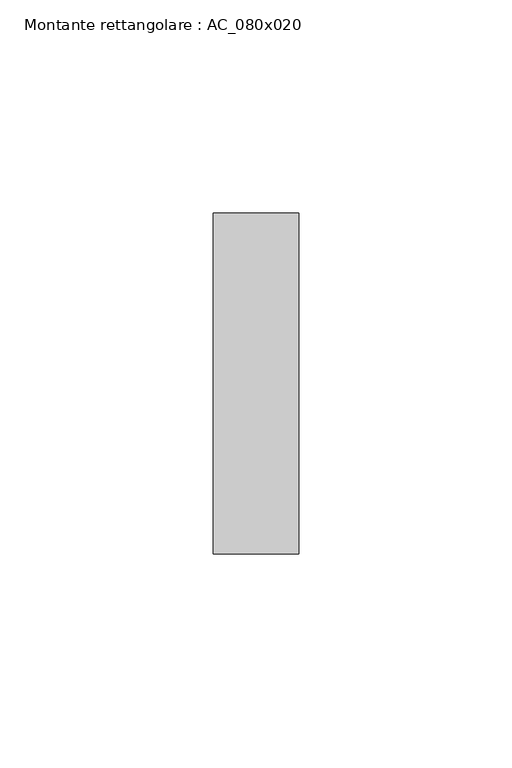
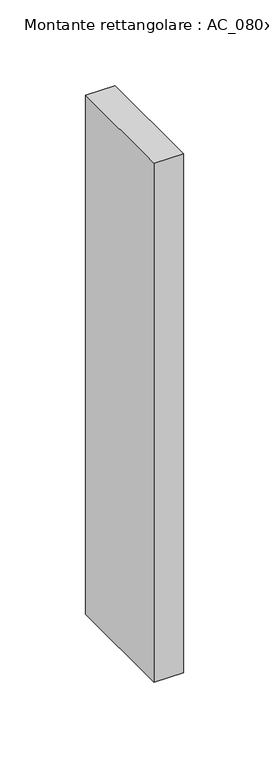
"""IFC4 building model written with IfcOpenShell, lengths in millimetres: member geometry, Montante rettangolare : AC_080x020."""

import ifcopenshell
import ifcopenshell.guid

model = None  # the IFC model being written
_history = None  # IfcOwnerHistory: only IFC2X3 demands one
_inside = {}  # id of a spatial element -> (the spatial element, [elements in it])
_under = {}  # id of a project, library or spatial element -> (it, [spatial elements below it])
_declared = {}  # id of a project -> (the project, [libraries it declares])
_typed = {}  # id of a type object -> (the type object, [elements of that type])
_made_of = {}  # id of a material, layer set ... -> (it, [elements and type objects made of it])


def new_model(schema):
    """Start an empty IFC model of exactly this schema.

    Asked for "IFC4X3", IfcOpenShell would pick the latest addendum, in which some entities
    have other attributes; the version numbers below select the first issue.
    IFC2X3 requires an IfcOwnerHistory on every rooted entity: one is made here for all.
    """
    global model, _history
    if schema == "IFC4X3":
        model = ifcopenshell.file(schema_version=(4, 3, 0, 0))
    else:
        model = ifcopenshell.file(schema=schema)
    _inside.clear()
    _under.clear()
    _declared.clear()
    _typed.clear()
    _made_of.clear()
    _history = None
    if model.schema == "IFC2X3":
        org = make("IfcOrganization", Name="unknown")
        user = make(
            "IfcPersonAndOrganization",
            ThePerson=make("IfcPerson", FamilyName="unknown"),
            TheOrganization=org,
        )
        app = make(
            "IfcApplication",
            ApplicationDeveloper=org,
            Version="unknown",
            ApplicationFullName="unknown",
            ApplicationIdentifier="unknown",
        )
        _history = make(
            "IfcOwnerHistory",
            OwningUser=user,
            OwningApplication=app,
            ChangeAction="ADDED",
            CreationDate=0,
        )
    return model


def make(cls, **values):
    """One entity of the class cls with the attributes given. An attribute that is None is left unset."""
    return model.create_entity(
        cls, **{name: value for name, value in values.items() if value is not None}
    )


def rooted(cls, **values):
    """An entity with a GlobalId (a new one), such as an element, a storey or a relation."""
    return make(cls, GlobalId=ifcopenshell.guid.new(), OwnerHistory=_history, **values)


def si_unit(unit_type, name, prefix=None):
    """IfcSIUnit, for example si_unit("LENGTHUNIT", "METRE", prefix="MILLI")."""
    return make("IfcSIUnit", UnitType=unit_type, Prefix=prefix, Name=name)


def assignment(units):
    """IfcUnitAssignment: the units of a project."""
    return None if units is None else make("IfcUnitAssignment", Units=units)


def point(xyz):
    """IfcCartesianPoint."""
    return None if xyz is None else make("IfcCartesianPoint", Coordinates=xyz)


def direction(xyz):
    """IfcDirection."""
    return None if xyz is None else make("IfcDirection", DirectionRatios=xyz)


def frame(location, z_axis=None, x_axis=None):
    """IfcAxis2Placement3D, a coordinate frame: its origin and axes. An axis left out is left unset."""
    return make(
        "IfcAxis2Placement3D",
        Location=point(location),
        Axis=direction(z_axis),
        RefDirection=direction(x_axis),
    )


def origin():
    """The frame at (0, 0, 0) with its axes left unset."""
    return frame((0.0, 0.0, 0.0))


def place(relative_to, where):
    """IfcLocalPlacement: puts the frame where relative to a parent placement (None: the world)."""
    return make(
        "IfcLocalPlacement", PlacementRelTo=relative_to, RelativePlacement=where
    )


def context(
    kind, dimensions, precision=None, world=None, true_north=None, identifier=None
):
    """IfcGeometricRepresentationContext, for example the 3D "Model" context."""
    return make(
        "IfcGeometricRepresentationContext",
        ContextIdentifier=identifier,
        ContextType=kind,
        CoordinateSpaceDimension=dimensions,
        Precision=precision,
        WorldCoordinateSystem=world,
        TrueNorth=true_north,
    )


def project(units=None, contexts=None):
    """IfcProject with its units and contexts."""
    return rooted(
        "IfcProject",
        Name="project",
        RepresentationContexts=contexts,
        UnitsInContext=assignment(units),
    )


def spatial(cls, under=None, at=None, **own):
    """A site, building, storey or space (cls), placed at a placement, below another one or the project."""
    s = rooted(cls, ObjectPlacement=at, **own)
    if under is not None:
        _under.setdefault(under.id(), (under, []))[1].append(s)
    return s


def polyline(points):
    """IfcPolyline through the points."""
    return make("IfcPolyline", Points=[point(p) for p in points])


def outline(outer, holes=None, kind="AREA"):
    """IfcArbitraryClosedProfileDef: a profile drawn as a closed curve; with holes, ...WithVoids."""
    if holes is None:
        return make("IfcArbitraryClosedProfileDef", ProfileType=kind, OuterCurve=outer)
    return make(
        "IfcArbitraryProfileDefWithVoids",
        ProfileType=kind,
        OuterCurve=outer,
        InnerCurves=holes,
    )


def extrude(swept, where, along, depth):
    """IfcExtrudedAreaSolid: the profile swept, set in the frame where, extruded along a direction by depth."""
    return make(
        "IfcExtrudedAreaSolid",
        SweptArea=swept,
        Position=where,
        ExtrudedDirection=direction(along),
        Depth=depth,
    )


def shape(context_of_items, identifier, shape_type, items):
    """IfcShapeRepresentation: the items that make up one representation, for example the "Body"."""
    return make(
        "IfcShapeRepresentation",
        ContextOfItems=context_of_items,
        RepresentationIdentifier=identifier,
        RepresentationType=shape_type,
        Items=items,
    )


def source(mapping_origin, context_of_items, identifier, shape_type, items):
    """IfcRepresentationMap: a shape defined once, which mapped items show again and again."""
    return make(
        "IfcRepresentationMap",
        MappingOrigin=mapping_origin,
        MappedRepresentation=shape(context_of_items, identifier, shape_type, items),
    )


def transform(
    local_origin,
    x_axis=None,
    y_axis=None,
    z_axis=None,
    scale=None,
    scale2=None,
    scale3=None,
    uniform=True,
):
    """IfcCartesianTransformationOperator3D, or its non-uniform kind. x_axis, y_axis, z_axis: its Axis1, 2, 3."""
    if uniform:
        return make(
            "IfcCartesianTransformationOperator3D",
            Axis1=direction(x_axis),
            Axis2=direction(y_axis),
            LocalOrigin=point(local_origin),
            Scale=scale,
            Axis3=direction(z_axis),
        )
    return make(
        "IfcCartesianTransformationOperator3DnonUniform",
        Axis1=direction(x_axis),
        Axis2=direction(y_axis),
        LocalOrigin=point(local_origin),
        Scale=scale,
        Axis3=direction(z_axis),
        Scale2=scale2,
        Scale3=scale3,
    )


def mapped(mapping_source, mapping_target):
    """IfcMappedItem: shows the shape of a source again, moved by a transform."""
    return make(
        "IfcMappedItem", MappingSource=mapping_source, MappingTarget=mapping_target
    )


def made_of(thing, what):
    """Note that an element or type object is made of a material, layer set ...; save() writes the relation."""
    if what is not None:
        _made_of.setdefault(what.id(), (what, []))[1].append(thing)
    return thing


def element(
    cls,
    number,
    at=None,
    inside=None,
    cuts=None,
    type_object=None,
    material=None,
    context=None,
    identifier="Body",
    shape_type=None,
    held_by="IfcProductDefinitionShape",
    body=None,
    shapes=None,
    **own,
):
    """One element of the class cls, such as IfcWall. Its Tag is "e" and its number.

    at: its placement. inside: the storey or other place that contains it. cuts: it is an
    opening in that element (IfcRelVoidsElement). A single representation is given by context,
    identifier, shape_type and body (its items); several are given by shapes. held_by: the class
    of the entity that holds the representations. save() writes the other relations.
    """
    e = rooted(cls, Tag="e%d" % number, ObjectPlacement=at, **own)
    if body is not None:
        shapes = [shape(context, identifier, shape_type, body)]
    if shapes is not None:
        e.Representation = make(held_by, Representations=shapes)
    if inside is not None:
        _inside.setdefault(inside.id(), (inside, []))[1].append(e)
    if cuts is not None:
        rooted(
            "IfcRelVoidsElement", RelatingBuildingElement=cuts, RelatedOpeningElement=e
        )
    if type_object is not None:
        _typed.setdefault(type_object.id(), (type_object, []))[1].append(e)
    return made_of(e, material)


def aggregate(whole, parts):
    """IfcRelAggregates: a whole, such as a stair, and the parts it consists of."""
    return rooted("IfcRelAggregates", RelatingObject=whole, RelatedObjects=parts)


def save(model, path):
    """Write the relations noted so far, then the file.

    IfcRelAggregates (storeys below a building ...), IfcRelContainedInSpatialStructure (elements
    in a storey), IfcRelDefinesByType, IfcRelAssociatesMaterial and IfcRelDeclares: one each for
    every whole, place, type object, material and project.
    """
    for whole, parts in _under.values():
        aggregate(whole, parts)
    for where, things in _inside.values():
        rooted(
            "IfcRelContainedInSpatialStructure",
            RelatedElements=things,
            RelatingStructure=where,
        )
    for kind, things in _typed.values():
        rooted("IfcRelDefinesByType", RelatedObjects=things, RelatingType=kind)
    for what, things in _made_of.values():
        rooted("IfcRelAssociatesMaterial", RelatedObjects=things, RelatingMaterial=what)
    for by, libraries in _declared.values():
        rooted("IfcRelDeclares", RelatingContext=by, RelatedDefinitions=libraries)
    model.write(path)


def montante_rettangolare_ac_080x020_745d10ed(model_context):
    return source(origin(), model_context, "Body", "SweptSolid", [
        extrude(outline(polyline([(0.0, 40.0), (0.0, -40.0), (-20.0, -40.0), (-20.0, 40.0), (0.0, 40.0)])), frame((0.0, 0.0, -370.0), z_axis=(0.0, 0.0, 1.0), x_axis=(1.0, 0.0, 0.0)), (0.0, 0.0, 1.0), 370.0),
    ])


if __name__ == "__main__":
    model = new_model("IFC4")
    model_context = context("Model", 3, world=origin())
    ifc_project = project(units=[si_unit("LENGTHUNIT", "METRE", prefix="MILLI")], contexts=[model_context])
    site = spatial("IfcSite", under=ifc_project)
    building = spatial("IfcBuilding", under=site)
    placement = place(None, origin())
    montante_rettangolare_ac_080x020_shape = montante_rettangolare_ac_080x020_745d10ed(model_context)
    element("IfcMember", 1, ObjectType="Montante rettangolare : AC_080x020", at=placement, inside=building, context=model_context, shape_type="MappedRepresentation", body=[
        mapped(montante_rettangolare_ac_080x020_shape, transform((0.0, 0.0, 0.0), x_axis=(1.0, 0.0, 0.0), y_axis=(0.0, 1.0, 0.0), z_axis=(0.0, 0.0, 1.0))),
    ])
    save(model, "model.ifc")
